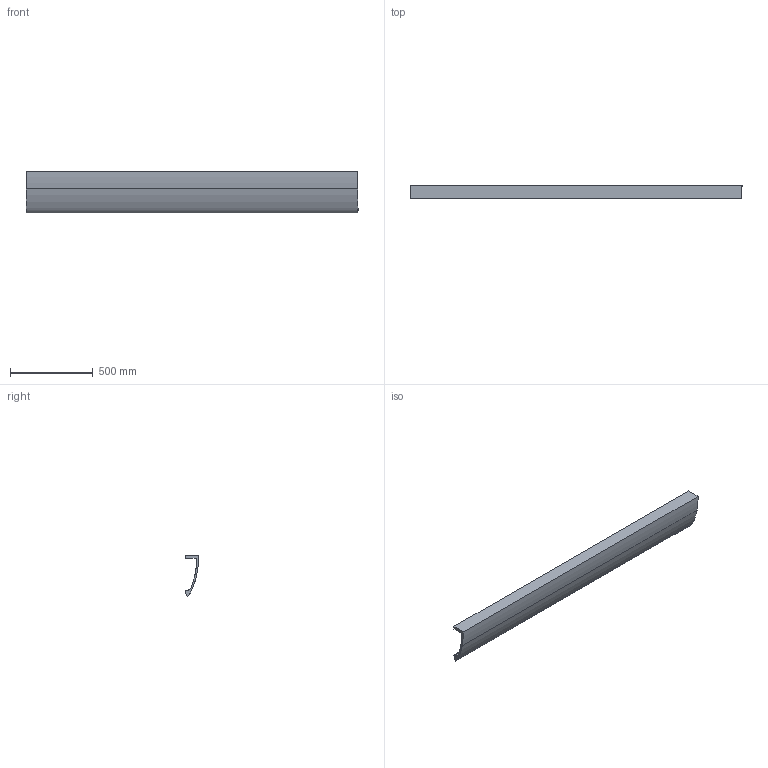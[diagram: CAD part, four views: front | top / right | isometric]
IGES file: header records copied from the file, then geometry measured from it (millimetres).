
Start section: SolidWorks IGES file using analytic representation for surfaces
Global section: file name: C:\Users\Stagiaire\Desktop\Rendu 3D\CORNICHE\197 CORNICHE\197_CORNICHE.IGS; native system: SolidWorks 2014; preprocessor: SolidWorks 2014; author: Stagiaire; date: 140915.094538; units: millimetre
Bounding box: 2000 x 80 x 249.37 mm (x, y, z)
Surface area: 1389011 mm2 (no closed solid volume)
Topology: 0 solids, 0 shells, 15 faces, 152 edges, 152 vertices
Faces by surface type: revolution 10, bspline 5
